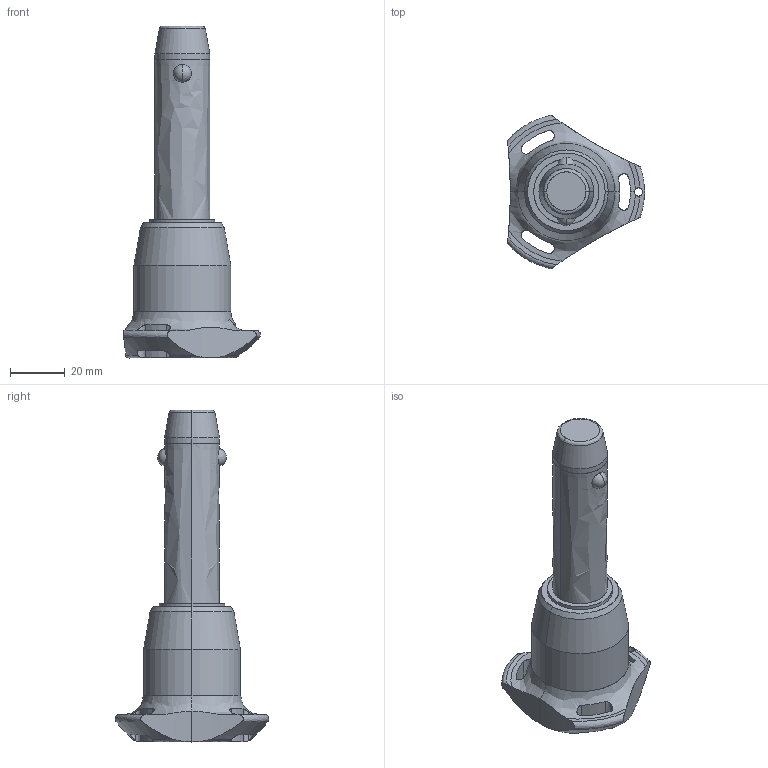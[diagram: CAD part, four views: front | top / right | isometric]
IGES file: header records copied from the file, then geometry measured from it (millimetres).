
Start section: SolidWorks IGES file using analytic representation for surfaces
Global section: file name: C:\Users\ianosborn\Desktop\QR1736_v2\QR1736_v2_20251115_IGES\QR1736.M20-050-T.igs; native system: SolidWorks 2019; preprocessor: SolidWorks 2019; author: IanOsborn; date: 251113.121049; units: millimetre
Bounding box: 50.05 x 56.02 x 121.2 mm (x, y, z)
Surface area: 14218.3 mm2 (no closed solid volume)
Topology: 0 solids, 0 shells, 68 faces, 1445 edges, 1441 vertices
Faces by surface type: revolution 52, bspline 16
